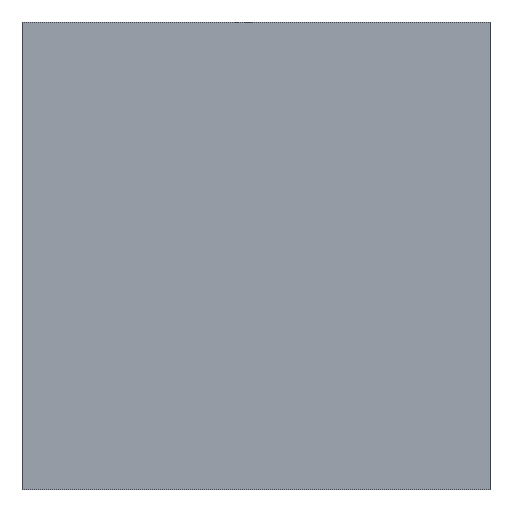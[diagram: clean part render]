
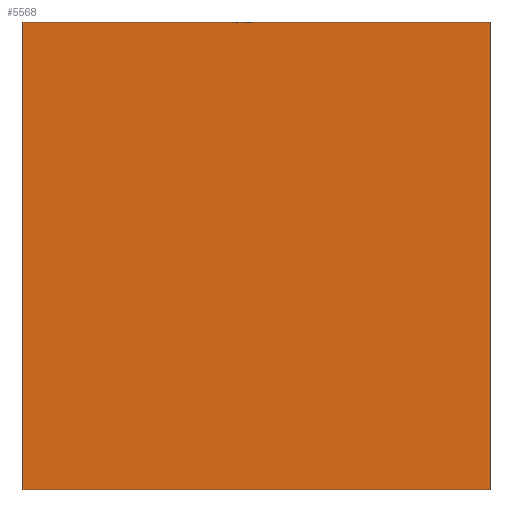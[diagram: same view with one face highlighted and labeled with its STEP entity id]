
A CAD part, front view. The second image highlights one B-rep face of the part: STEP entity #5568.
In plain terms, the highlighted planar face has unit normal (0, -1, 0).
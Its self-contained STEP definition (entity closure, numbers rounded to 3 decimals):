
#113 = LINE ( 'NONE', #6013, #4701 ) ;
#378 = VECTOR ( 'NONE', #3551, 1000. ) ;
#710 = EDGE_CURVE ( 'NONE', #5761, #3805, #7588, .T. ) ;
#732 = DIRECTION ( 'NONE',  ( -1., 0., 0. ) ) ;
#987 = VECTOR ( 'NONE', #732, 1000. ) ;
#1022 = CARTESIAN_POINT ( 'NONE',  ( 12.1, 0., 12.1 ) ) ;
#1407 = CARTESIAN_POINT ( 'NONE',  ( -12.1, 0., 12.1 ) ) ;
#1794 = DIRECTION ( 'NONE',  ( 0., 0., -1. ) ) ;
#2627 = VERTEX_POINT ( 'NONE', #5637 ) ;
#3042 = LINE ( 'NONE', #8422, #5847 ) ;
#3045 = LINE ( 'NONE', #9015, #378 ) ;
#3288 = ORIENTED_EDGE ( 'NONE', *, *, #6954, .F. ) ;
#3551 = DIRECTION ( 'NONE',  ( 0., 0., -1. ) ) ;
#3805 = VERTEX_POINT ( 'NONE', #1407 ) ;
#4170 = ORIENTED_EDGE ( 'NONE', *, *, #7960, .T. ) ;
#4368 = ORIENTED_EDGE ( 'NONE', *, *, #710, .T. ) ;
#4701 = VECTOR ( 'NONE', #6795, 1000. ) ;
#5568 = ADVANCED_FACE ( 'NONE', ( #9102 ), #8744, .T. ) ;
#5637 = CARTESIAN_POINT ( 'NONE',  ( -12.1, 0., -12.1 ) ) ;
#5761 = VERTEX_POINT ( 'NONE', #9016 ) ;
#5847 = VECTOR ( 'NONE', #6925, 1000. ) ;
#6013 = CARTESIAN_POINT ( 'NONE',  ( 12.1, 0., -12.1 ) ) ;
#6042 = CARTESIAN_POINT ( 'NONE',  ( 12.1, 0., -12.1 ) ) ;
#6174 = CARTESIAN_POINT ( 'NONE',  ( 12.1, 0., 12.1 ) ) ;
#6459 = DIRECTION ( 'NONE',  ( 0., -1., 0. ) ) ;
#6795 = DIRECTION ( 'NONE',  ( -1., 0., 0. ) ) ;
#6925 = DIRECTION ( 'NONE',  ( 0., 0., -1. ) ) ;
#6954 = EDGE_CURVE ( 'NONE', #5761, #7462, #3042, .T. ) ;
#6987 = EDGE_LOOP ( 'NONE', ( #8918, #3288, #4368, #4170 ) ) ;
#7287 = AXIS2_PLACEMENT_3D ( 'NONE', #1022, #6459, #1794 ) ;
#7462 = VERTEX_POINT ( 'NONE', #6042 ) ;
#7588 = LINE ( 'NONE', #6174, #987 ) ;
#7960 = EDGE_CURVE ( 'NONE', #3805, #2627, #3045, .T. ) ;
#8422 = CARTESIAN_POINT ( 'NONE',  ( 12.1, 0., 12.1 ) ) ;
#8744 = PLANE ( 'NONE',  #7287 ) ;
#8774 = EDGE_CURVE ( 'NONE', #7462, #2627, #113, .T. ) ;
#8918 = ORIENTED_EDGE ( 'NONE', *, *, #8774, .F. ) ;
#9015 = CARTESIAN_POINT ( 'NONE',  ( -12.1, 0., 12.1 ) ) ;
#9016 = CARTESIAN_POINT ( 'NONE',  ( 12.1, 0., 12.1 ) ) ;
#9102 = FACE_OUTER_BOUND ( 'NONE', #6987, .T. ) ;
